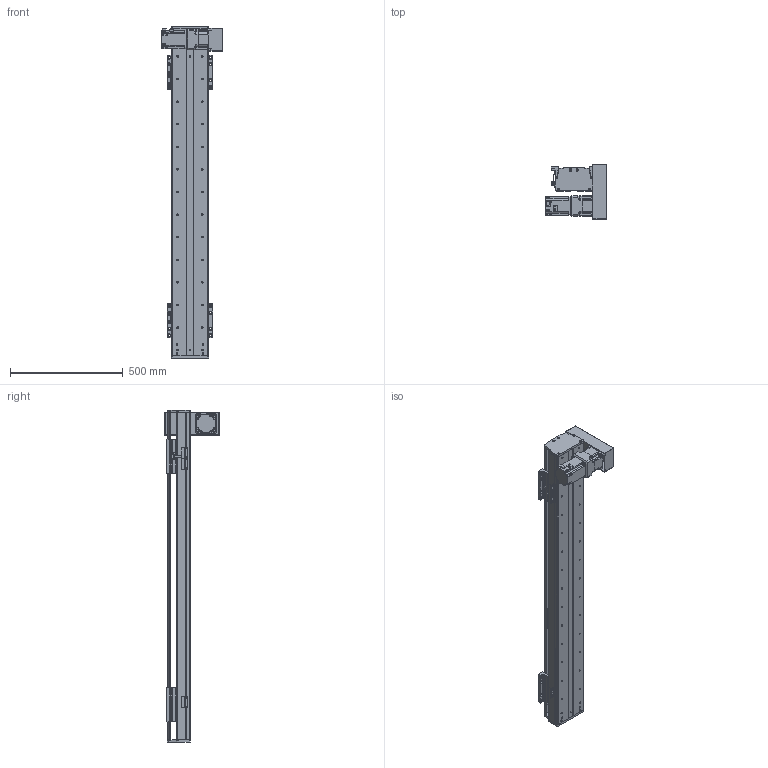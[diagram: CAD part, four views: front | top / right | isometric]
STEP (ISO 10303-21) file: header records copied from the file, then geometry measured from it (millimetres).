
FILE_DESCRIPTION(/* description */ (''),/* implementation_level */ '2;1');
FILE_NAME(/* name */ 'C:\Users\PC\Desktop\3D도면\STEP\새 폴더\DSB165-DR7G-W1100-L.stp',/* time_stamp */ '2018-06-25T15:58:26+09:00',/* author */ ('PC'),/* organization */ (''),/* preprocessor_version */ 'ST-DEVELOPER v16.5',/* originating_system */ 'Autodesk Inventor 2017',/* authorisation */ '');
FILE_SCHEMA (('AUTOMOTIVE_DESIGN { 1 0 10303 214 3 1 1 }'));
Length unit declared in the file: millimetre
Products named in the file (12): DSB165-DL7G-W1100-R_MIR; DSB165-BASE-L_MIR; hg-kr73__MIR; ab0901-p0401300102_MIR; 11-DSB165 BELT COVER_MIR; 12-DSB165-REAR COVER_MIR; 14-DSB165-FRONT COVER_MIR; DSB165-UP COVER_MIR; DSB165-TABLE(MSB20S)_MIR; DSR165-SENSOR DOG_MIR; SENSOR BRACKET(EE-SX674A)_MIR; pm-y65_step_MIR
Assembly tree (16 placements, depth 2):
  DSB165-DL7G-W1100-R_MIR
    DSB165-BASE-L_MIR
    hg-kr73__MIR
    ab0901-p0401300102_MIR
    11-DSB165 BELT COVER_MIR
    12-DSB165-REAR COVER_MIR
    14-DSB165-FRONT COVER_MIR
    DSB165-UP COVER_MIR
    DSB165-TABLE(MSB20S)_MIR  x2
    DSR165-SENSOR DOG_MIR
    pm-y65_step_MIR  x3
    SENSOR BRACKET(EE-SX674A)_MIR  x3
Bounding box: 270 x 242 x 1470 mm (x, y, z)
Volume: 9325227.6 mm3; surface area: 2161585.2 mm2
Topology: 17 solids, 17 shells, 1669 faces, 4484 edges, 2954 vertices
Faces by surface type: plane 921, cylinder 620, cone 116, sphere 8, torus 4
Full cylindrical faces by diameter (mm): 2.459 x20, 3.5 x6, 4.134 x42, 4.5 x18, 5 x27, 5.5 x36, 5.9 x4, 6 x4, 6.6 x14, 6.647 x44, 6.8 x1, 7 x4, 7.6 x4, 8.4 x1, 8.5 x24, 8.7 x1, 9.5 x32, 11 x6, 14 x16, 19 x1, 22 x1, 24 x1, 25 x1, 28 x1, 67 x1, 70 x2, 80 x1
Entity records: 36172 total; most frequent: DIRECTION 6266, CARTESIAN_POINT 6075, ORIENTED_EDGE 5538, EDGE_CURVE 2769, AXIS2_PLACEMENT_3D 2303, VERTEX_POINT 1974, EDGE_LOOP 1735, LINE 1660
